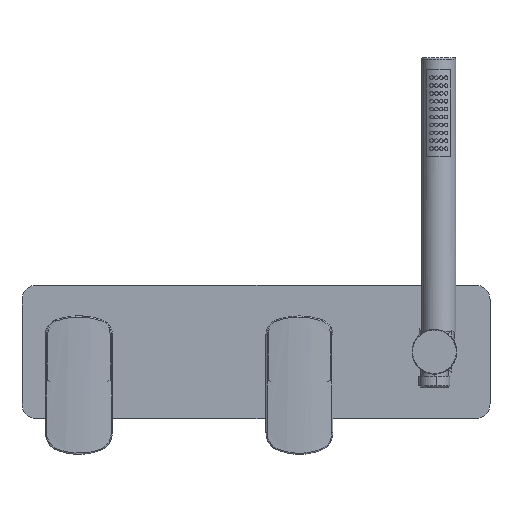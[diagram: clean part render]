
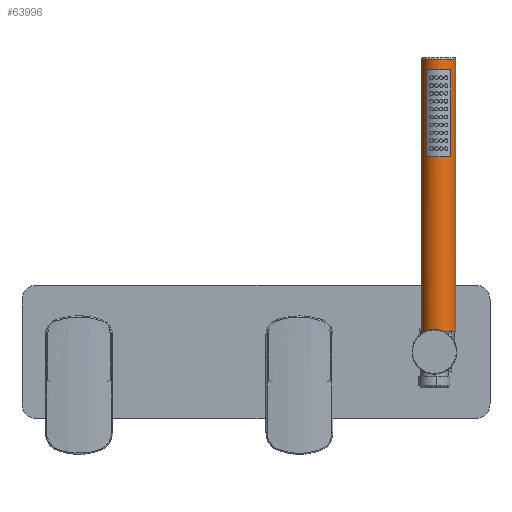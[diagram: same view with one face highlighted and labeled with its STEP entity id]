
A CAD part, top view. The second image highlights one B-rep face of the part: STEP entity #63996.
In plain terms, the highlighted cylindrical face has radius 11.5 mm (diameter 23 mm), a partial arc.
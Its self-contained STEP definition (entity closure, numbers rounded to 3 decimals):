
#610 = CARTESIAN_POINT ( 'NONE',  ( 234.919, 131.27, 160.913 ) ) ;
#666 = AXIS2_PLACEMENT_3D ( 'NONE', #7151, #28086, #34335 ) ;
#2305 = CARTESIAN_POINT ( 'NONE',  ( 243.069, 196.97, 152.8 ) ) ;
#2569 = CARTESIAN_POINT ( 'NONE',  ( 243.069, 150.97, 152.8 ) ) ;
#3549 = ORIENTED_EDGE ( 'NONE', *, *, #35797, .T. ) ;
#7075 = CARTESIAN_POINT ( 'NONE',  ( 251.219, 150.97, 160.913 ) ) ;
#7151 = CARTESIAN_POINT ( 'NONE',  ( 243.069, 13.47, 152.8 ) ) ;
#7949 = LINE ( 'NONE', #7075, #56924 ) ;
#8593 = CARTESIAN_POINT ( 'NONE',  ( 251.219, 189.77, 160.913 ) ) ;
#8776 = CYLINDRICAL_SURFACE ( 'NONE', #42952, 11.5 ) ;
#9812 = CARTESIAN_POINT ( 'NONE',  ( 234.919, 189.77, 160.913 ) ) ;
#9968 = EDGE_LOOP ( 'NONE', ( #82951, #36074, #52630, #39953 ) ) ;
#10113 = VERTEX_POINT ( 'NONE', #11857 ) ;
#10149 = EDGE_CURVE ( 'NONE', #18672, #19112, #11409, .T. ) ;
#10478 = VERTEX_POINT ( 'NONE', #52660 ) ;
#11409 = LINE ( 'NONE', #66135, #12478 ) ;
#11857 = CARTESIAN_POINT ( 'NONE',  ( 254.569, 196.97, 152.8 ) ) ;
#12478 = VECTOR ( 'NONE', #86114, 1000. ) ;
#14157 = DIRECTION ( 'NONE',  ( 0., -1., 0. ) ) ;
#15622 = DIRECTION ( 'NONE',  ( 0., -1., 0. ) ) ;
#18672 = VERTEX_POINT ( 'NONE', #46022 ) ;
#19112 = VERTEX_POINT ( 'NONE', #71616 ) ;
#22574 = EDGE_CURVE ( 'NONE', #67283, #82166, #7949, .T. ) ;
#26548 = AXIS2_PLACEMENT_3D ( 'NONE', #46126, #27439, #80775 ) ;
#27439 = DIRECTION ( 'NONE',  ( 0., 1., 0. ) ) ;
#28086 = DIRECTION ( 'NONE',  ( 0., 1., 0. ) ) ;
#28165 = AXIS2_PLACEMENT_3D ( 'NONE', #2305, #15622, #69866 ) ;
#28848 = CARTESIAN_POINT ( 'NONE',  ( 243.069, 131.27, 152.8 ) ) ;
#34335 = DIRECTION ( 'NONE',  ( -1., 0., 0. ) ) ;
#35797 = EDGE_CURVE ( 'NONE', #82166, #73015, #82507, .T. ) ;
#36074 = ORIENTED_EDGE ( 'NONE', *, *, #39612, .T. ) ;
#37635 = CARTESIAN_POINT ( 'NONE',  ( 251.219, 131.27, 160.913 ) ) ;
#39142 = EDGE_CURVE ( 'NONE', #18672, #10478, #43292, .T. ) ;
#39612 = EDGE_CURVE ( 'NONE', #10478, #10113, #86109, .T. ) ;
#39953 = ORIENTED_EDGE ( 'NONE', *, *, #10149, .F. ) ;
#42598 = FACE_BOUND ( 'NONE', #50435, .T. ) ;
#42952 = AXIS2_PLACEMENT_3D ( 'NONE', #2569, #83913, #50120 ) ;
#43292 = CIRCLE ( 'NONE', #666, 11.5 ) ;
#45789 = ORIENTED_EDGE ( 'NONE', *, *, #22574, .T. ) ;
#46022 = CARTESIAN_POINT ( 'NONE',  ( 231.569, 13.47, 152.8 ) ) ;
#46126 = CARTESIAN_POINT ( 'NONE',  ( 243.069, 189.77, 152.8 ) ) ;
#49504 = VECTOR ( 'NONE', #53698, 1000. ) ;
#49694 = DIRECTION ( 'NONE',  ( 0., -1., 0. ) ) ;
#50120 = DIRECTION ( 'NONE',  ( -1., 0., 0. ) ) ;
#50435 = EDGE_LOOP ( 'NONE', ( #51848, #45789, #3549, #83712 ) ) ;
#51848 = ORIENTED_EDGE ( 'NONE', *, *, #54698, .T. ) ;
#52306 = CARTESIAN_POINT ( 'NONE',  ( 254.569, 150.97, 152.8 ) ) ;
#52630 = ORIENTED_EDGE ( 'NONE', *, *, #86871, .T. ) ;
#52660 = CARTESIAN_POINT ( 'NONE',  ( 254.569, 13.47, 152.8 ) ) ;
#53698 = DIRECTION ( 'NONE',  ( 0., 1., 0. ) ) ;
#54068 = DIRECTION ( 'NONE',  ( 0., 1., 0. ) ) ;
#54698 = EDGE_CURVE ( 'NONE', #62385, #67283, #74789, .T. ) ;
#56924 = VECTOR ( 'NONE', #14157, 1000. ) ;
#58412 = AXIS2_PLACEMENT_3D ( 'NONE', #28848, #49694, #63041 ) ;
#58577 = EDGE_CURVE ( 'NONE', #73015, #62385, #72853, .T. ) ;
#62385 = VERTEX_POINT ( 'NONE', #9812 ) ;
#63041 = DIRECTION ( 'NONE',  ( -1., 0., 0. ) ) ;
#63613 = CIRCLE ( 'NONE', #28165, 11.5 ) ;
#63996 = ADVANCED_FACE ( 'NONE', ( #42598, #84343 ), #8776, .T. ) ;
#64629 = VECTOR ( 'NONE', #54068, 1000. ) ;
#65765 = CARTESIAN_POINT ( 'NONE',  ( 234.919, 150.97, 160.913 ) ) ;
#66135 = CARTESIAN_POINT ( 'NONE',  ( 231.569, 150.97, 152.8 ) ) ;
#67283 = VERTEX_POINT ( 'NONE', #8593 ) ;
#69866 = DIRECTION ( 'NONE',  ( -1., 0., 0. ) ) ;
#71616 = CARTESIAN_POINT ( 'NONE',  ( 231.569, 196.97, 152.8 ) ) ;
#72853 = LINE ( 'NONE', #65765, #49504 ) ;
#73015 = VERTEX_POINT ( 'NONE', #610 ) ;
#74789 = CIRCLE ( 'NONE', #26548, 11.5 ) ;
#80775 = DIRECTION ( 'NONE',  ( -1., 0., 0. ) ) ;
#82166 = VERTEX_POINT ( 'NONE', #37635 ) ;
#82507 = CIRCLE ( 'NONE', #58412, 11.5 ) ;
#82951 = ORIENTED_EDGE ( 'NONE', *, *, #39142, .T. ) ;
#83712 = ORIENTED_EDGE ( 'NONE', *, *, #58577, .T. ) ;
#83913 = DIRECTION ( 'NONE',  ( 0., 1., 0. ) ) ;
#84343 = FACE_OUTER_BOUND ( 'NONE', #9968, .T. ) ;
#86109 = LINE ( 'NONE', #52306, #64629 ) ;
#86114 = DIRECTION ( 'NONE',  ( 0., 1., 0. ) ) ;
#86871 = EDGE_CURVE ( 'NONE', #10113, #19112, #63613, .T. ) ;
